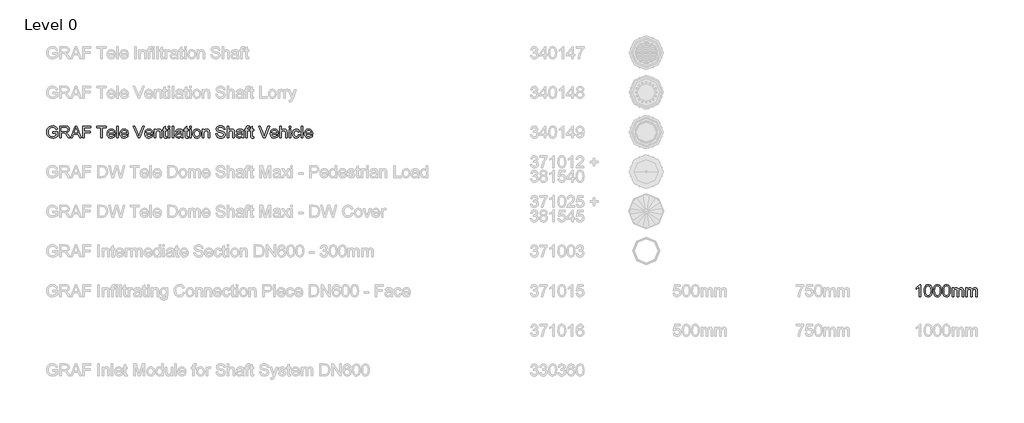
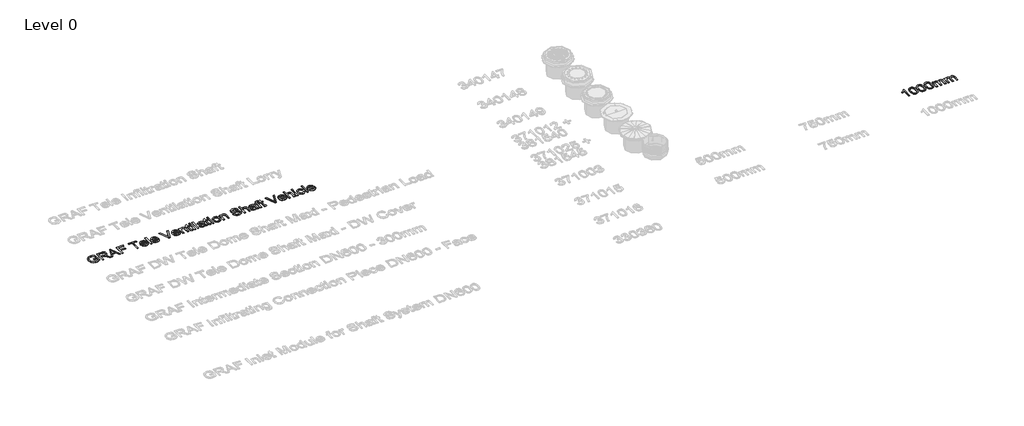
# One storey, part 15 of 25: 2 proxies.
"""IFC4 building model written with IfcOpenShell, lengths in millimetres."""

from ifc_helpers import new_model, si_unit, origin, origin_with_axes, place, context, project, spatial, polyline, outline, extrude, element, save

model = new_model("IFC4")

# Units and contexts
model_context = context("Model", 3, world=origin())
ifc_project = project(units=[si_unit("LENGTHUNIT", "METRE", prefix="MILLI")], contexts=[model_context])

# Site, building, storey
site = spatial("IfcSite", under=ifc_project)
building = spatial("IfcBuilding", under=site)
storey = spatial("IfcBuildingStorey", under=building, Name="Level 0", Elevation=0.0)

# Proxies
placement = place(None, origin())
element("IfcBuildingElementProxy", 1, Name="300mm Arial", ObjectType="300mm Arial", at=placement, inside=storey, context=model_context, shape_type="SweptSolid", body=[
    extrude(outline(polyline([(-15240.9940387, 1916.7454403), (-15240.9940387, 1954.4165566), (-15118.5629107, 1954.4165566), (-15118.5629107, 1841.7710897), (-15148.3153671, 1821.0777274), (-15179.0059225, 1806.2336889), (-15210.5610007, 1797.2941564), (-15242.9070251, 1794.3143123), (-15285.1674693, 1799.050793), (-15323.3628175, 1813.260235), (-15355.0926395, 1836.4459978), (-15377.9565055, 1868.1114405), (-15391.7796715, 1906.0952565), (-15396.3873935, 1948.2361391), (-15391.7980656, 1990.6805243), (-15378.0300819, 2030.1634594), (-15355.6536596, 2063.282036), (-15325.2390156, 2086.6333457), (-15288.1932987, 2100.4841028), (-15245.9236575, 2105.1010218), (-15214.8928112, 2102.4246803), (-15186.9889618, 2094.3956557), (-15163.4904994, 2081.5933623), (-15145.6758138, 2064.5972141), (-15132.4964413, 2042.5886738), (-15122.9039183, 2014.7492038), (-15157.6319786, 2004.9635427), (-15165.3850917, 2024.8199734), (-15174.8120678, 2039.8019677), (-15187.2832674, 2051.0959449), (-15204.169051, 2059.8883246), (-15224.3013932, 2065.5445103), (-15246.5122687, 2067.4299055), (-15272.5123287, 2065.3973575), (-15294.7415982, 2059.2997134), (-15313.1173039, 2049.9003284), (-15327.5566722, 2037.9625577), (-15346.9440533, 2008.9366683), (-15355.7732212, 1980.49939), (-15358.7162772, 1949.7812434), (-15355.175413, 1913.7563991), (-15344.5528204, 1884.1143073), (-15327.1703961, 1861.0665003), (-15303.3500369, 1844.8245102), (-15275.4737787, 1835.195199), (-15245.9236575, 1831.9854286), (-15219.831627, 1834.4042527), (-15194.3833899, 1841.6607251), (-15172.2828791, 1851.6579183), (-15156.234027, 1862.298905), (-15156.234027, 1916.7454403), (-15240.9940387, 1916.7454403)])), origin_with_axes(), (0.0, 0.0, 1.0), 10.0),
    extrude(outline(polyline([(-15057.3473467, 1799.0232018), (-15057.3473467, 2100.3921323), (-14927.4850024, 2100.3921323), (-14892.5821982, 2098.3595842), (-14867.1891434, 2092.2619402), (-14848.6294968, 2081.0047511), (-14834.2269167, 2063.4935682), (-14824.9838815, 2041.7793334), (-14821.9028698, 2017.912989), (-14827.0072325, 1988.2249119), (-14842.3203206, 1963.6136065), (-14853.9200997, 1953.5842236), (-14868.3019865, 1945.5689946), (-14905.4120827, 1935.5809984), (-14884.0013506, 1919.467767), (-14853.467145, 1880.6930048), (-14803.2144645, 1799.0232018), (-14846.9924219, 1799.0232018), (-14886.2086426, 1861.4895646), (-14914.5355562, 1902.8395009), (-14934.4379722, 1922.3740348), (-14952.3538253, 1929.5477337), (-14974.2060158, 1930.8721089), (-15019.6762304, 1930.8721089), (-15019.6762304, 1799.0232018), (-15057.3473467, 1799.0232018)]), holes=[polyline([(-15019.6762304, 1968.5432252), (-14935.3576771, 1968.5432252), (-14911.1418448, 1969.8767974), (-14892.3522719, 1973.8775141), (-14878.2072092, 1980.8120897), (-14867.9249074, 1990.9472387), (-14861.6617165, 2003.2069062), (-14859.5739861, 2016.5150374), (-14863.5563087, 2034.890743), (-14875.5032765, 2049.6979933), (-14896.058683, 2059.4652603), (-14925.8663217, 2062.721016), (-15019.6762304, 2062.721016), (-15019.6762304, 1968.5432252)])]), origin_with_axes(), (0.0, 0.0, 1.0), 10.0),
    extrude(outline(polyline([(-14791.0743586, 1799.0232018), (-14670.7769462, 2100.3921323), (-14638.6976362, 2100.3921323), (-14518.4002238, 1799.0232018), (-14558.2050557, 1799.0232018), (-14592.7123868, 1893.2009926), (-14716.835772, 1893.2009926), (-14751.2695268, 1799.0232018), (-14791.0743586, 1799.0232018)]), holes=[polyline([(-14703.003409, 1930.8721089), (-14606.4711735, 1930.8721089), (-14633.6208647, 2004.9635427), (-14654.7372912, 2062.721016), (-14673.499273, 2011.4382658), (-14703.003409, 1930.8721089)])]), origin_with_axes(), (0.0, 0.0, 1.0), 10.0),
    extrude(outline(polyline([(-14478.1539335, 1799.0232018), (-14478.1539335, 2100.3921323), (-14275.6716834, 2100.3921323), (-14275.6716834, 2062.721016), (-14440.4828172, 2062.721016), (-14440.4828172, 1973.2521147), (-14299.2161311, 1973.2521147), (-14299.2161311, 1935.5809984), (-14440.4828172, 1935.5809984), (-14440.4828172, 1799.0232018), (-14478.1539335, 1799.0232018)])), origin_with_axes(), (0.0, 0.0, 1.0), 10.0),
    extrude(outline(polyline([(-14030.8094274, 1799.0232018), (-14030.8094274, 2062.721016), (-14129.6961077, 2062.721016), (-14129.6961077, 2100.3921323), (-13894.2516308, 2100.3921323), (-13894.2516308, 2062.721016), (-13993.1383111, 2062.721016), (-13993.1383111, 1799.0232018), (-14030.8094274, 1799.0232018)])), origin_with_axes(), (0.0, 0.0, 1.0), 10.0),
    extrude(outline(polyline([(-13701.6286181, 1864.9476554), (-13664.6932658, 1860.2387658), (-13678.001397, 1832.4084929), (-13699.2373851, 1811.6047661), (-13727.9229837, 1798.6369257), (-13763.5799461, 1794.3143123), (-13786.9542484, 1796.1790141), (-13807.7809678, 1801.7731197), (-13826.0601045, 1811.0966291), (-13841.7916583, 1824.1495421), (-13854.4422004, 1840.5685754), (-13863.4783019, 1859.9904455), (-13868.8999628, 1882.4151523), (-13870.7071831, 1907.842696), (-13868.8815687, 1934.1324631), (-13863.4047255, 1957.3044302), (-13854.2766535, 1977.3585975), (-13841.4973527, 1994.2949649), (-13825.8071856, 2007.7502488), (-13807.9465147, 2017.361166), (-13787.9153401, 2023.1277162), (-13765.7136617, 2025.0498997), (-13744.2270539, 2023.1323148), (-13724.7959868, 2017.3795601), (-13707.4204603, 2007.7916356), (-13692.1004744, 1994.3685413), (-13679.5947859, 1977.4689621), (-13670.6621512, 1957.451583), (-13665.3025704, 1934.3164041), (-13663.5160434, 1908.0634252), (-13663.7367726, 1897.9098821), (-13833.0360668, 1897.9098821), (-13826.5153584, 1869.7117272), (-13811.3678173, 1848.9815768), (-13789.5064297, 1836.2344656), (-13762.8441821, 1831.9854286), (-13742.7946134, 1833.9535973), (-13725.9088298, 1839.8581033), (-13712.1868314, 1850.0668287), (-13701.6286181, 1864.9476554)]), holes=[polyline([(-13833.0360668, 1935.5809984), (-13701.1871597, 1935.5809984), (-13706.2823254, 1955.4834144), (-13716.2703215, 1969.7204476), (-13738.2328766, 1982.9641994), (-13765.8608145, 1987.3787834), (-13791.2538692, 1983.8563132), (-13812.2507341, 1973.2889029), (-13826.8464522, 1956.8169866), (-13833.0360668, 1935.5809984)])]), origin_with_axes(), (0.0, 0.0, 1.0), 10.0),
    extrude(outline(polyline([(-13625.8449271, 1799.0232018), (-13625.8449271, 2100.3921323), (-13588.1738108, 2100.3921323), (-13588.1738108, 1799.0232018), (-13625.8449271, 1799.0232018)])), origin_with_axes(), (0.0, 0.0, 1.0), 10.0),
    extrude(outline(polyline([(-13376.71524, 1864.9476554), (-13339.7798877, 1860.2387658), (-13353.0880188, 1832.4084929), (-13374.324007, 1811.6047661), (-13403.0096056, 1798.6369257), (-13438.666568, 1794.3143123), (-13462.0408702, 1796.1790141), (-13482.8675897, 1801.7731197), (-13501.1467263, 1811.0966291), (-13516.8782801, 1824.1495421), (-13529.5288222, 1840.5685754), (-13538.5649238, 1859.9904455), (-13543.9865847, 1882.4151523), (-13545.793805, 1907.842696), (-13543.9681906, 1934.1324631), (-13538.4913474, 1957.3044302), (-13529.3632754, 1977.3585975), (-13516.5839745, 1994.2949649), (-13500.8938074, 2007.7502488), (-13483.0331366, 2017.361166), (-13463.0019619, 2023.1277162), (-13440.8002835, 2025.0498997), (-13419.3136758, 2023.1323148), (-13399.8826086, 2017.3795601), (-13382.5070821, 2007.7916356), (-13367.1870963, 1994.3685413), (-13354.6814077, 1977.4689621), (-13345.748773, 1957.451583), (-13340.3891922, 1934.3164041), (-13338.6026653, 1908.0634252), (-13338.8233945, 1897.9098821), (-13508.1226887, 1897.9098821), (-13501.6019803, 1869.7117272), (-13486.4544391, 1848.9815768), (-13464.5930516, 1836.2344656), (-13437.930804, 1831.9854286), (-13417.8812352, 1833.9535973), (-13400.9954517, 1839.8581033), (-13387.2734532, 1850.0668287), (-13376.71524, 1864.9476554)]), holes=[polyline([(-13508.1226887, 1935.5809984), (-13376.2737816, 1935.5809984), (-13381.3689472, 1955.4834144), (-13391.3569434, 1969.7204476), (-13413.3194985, 1982.9641994), (-13440.9474363, 1987.3787834), (-13466.3404911, 1983.8563132), (-13487.3373559, 1973.2889029), (-13501.9330741, 1956.8169866), (-13508.1226887, 1935.5809984)])]), origin_with_axes(), (0.0, 0.0, 1.0), 10.0),
    extrude(outline(polyline([(-13089.4729781, 1799.0232018), (-13209.4025086, 2100.3921323), (-13169.0826419, 2100.3921323), (-13088.8107906, 1883.2681787), (-13072.5504064, 1834.3398734), (-13056.5107514, 1883.2681787), (-12976.0181708, 2100.3921323), (-12935.6983042, 2100.3921323), (-13050.5510631, 1799.0232018), (-13089.4729781, 1799.0232018)])), origin_with_axes(), (0.0, 0.0, 1.0), 10.0),
    extrude(outline(polyline([(-12750.4329314, 1864.9476554), (-12713.4975791, 1860.2387658), (-12726.8057102, 1832.4084929), (-12748.0416984, 1811.6047661), (-12776.727297, 1798.6369257), (-12812.3842594, 1794.3143123), (-12835.7585616, 1796.1790141), (-12856.5852811, 1801.7731197), (-12874.8644177, 1811.0966291), (-12890.5959716, 1824.1495421), (-12903.2465137, 1840.5685754), (-12912.2826152, 1859.9904455), (-12917.7042761, 1882.4151523), (-12919.5114964, 1907.842696), (-12917.685882, 1934.1324631), (-12912.2090388, 1957.3044302), (-12903.0809668, 1977.3585975), (-12890.301666, 1994.2949649), (-12874.6114989, 2007.7502488), (-12856.750828, 2017.361166), (-12836.7196534, 2023.1277162), (-12814.5179749, 2025.0498997), (-12793.0313672, 2023.1323148), (-12773.6003, 2017.3795601), (-12756.2247736, 2007.7916356), (-12740.9047877, 1994.3685413), (-12728.3990991, 1977.4689621), (-12719.4664644, 1957.451583), (-12714.1068836, 1934.3164041), (-12712.3203567, 1908.0634252), (-12712.5410859, 1897.9098821), (-12881.8403801, 1897.9098821), (-12875.3196717, 1869.7117272), (-12860.1721306, 1848.9815768), (-12838.310743, 1836.2344656), (-12811.6484954, 1831.9854286), (-12791.5989266, 1833.9535973), (-12774.7131431, 1839.8581033), (-12760.9911447, 1850.0668287), (-12750.4329314, 1864.9476554)]), holes=[polyline([(-12881.8403801, 1935.5809984), (-12749.991473, 1935.5809984), (-12755.0866386, 1955.4834144), (-12765.0746348, 1969.7204476), (-12787.0371899, 1982.9641994), (-12814.6651277, 1987.3787834), (-12840.0581825, 1983.8563132), (-12861.0550473, 1973.2889029), (-12875.6507655, 1956.8169866), (-12881.8403801, 1935.5809984)])]), origin_with_axes(), (0.0, 0.0, 1.0), 10.0),
    extrude(outline(polyline([(-12674.6492404, 1799.0232018), (-12674.6492404, 2020.3410101), (-12636.9781241, 2020.3410101), (-12636.9781241, 1989.4389225), (-12623.8907221, 2005.018725), (-12608.1729639, 2016.1471554), (-12589.8248493, 2022.8242136), (-12568.8463786, 2025.0498997), (-12550.2775349, 2023.2564749), (-12533.2721896, 2017.8762008), (-12519.0903387, 2009.5804618), (-12508.991978, 1999.0406426), (-12497.6980007, 1971.3391284), (-12495.7114379, 1934.9188108), (-12495.7114379, 1799.0232018), (-12533.3825542, 1799.0232018), (-12533.3825542, 1929.8420393), (-12537.7235618, 1963.1721481), (-12543.7292353, 1973.0957649), (-12553.064241, 1980.7936956), (-12565.0296029, 1985.7325114), (-12578.9263452, 1987.3787834), (-12600.9900679, 1983.6815693), (-12619.7980349, 1972.5899271), (-12627.3143239, 1963.5354315), (-12632.6831018, 1951.1608009), (-12636.9781241, 1916.4511347), (-12636.9781241, 1799.0232018), (-12674.6492404, 1799.0232018)])), origin_with_axes(), (0.0, 0.0, 1.0), 10.0),
    extrude(outline(polyline([(-12363.8625309, 1830.4403242), (-12359.1536413, 1797.9195558), (-12387.3334021, 1794.3143123), (-12405.4148022, 1795.8778108), (-12418.8976773, 1800.5683062), (-12428.425821, 1807.7971874), (-12434.6430267, 1816.9758432), (-12438.0643293, 1832.7395867), (-12439.2047635, 1859.723731), (-12439.2047635, 1982.6698938), (-12467.4581007, 1982.6698938), (-12467.4581007, 2020.3410101), (-12439.2047635, 2020.3410101), (-12439.2047635, 2074.1253578), (-12401.5336472, 2096.2718539), (-12401.5336472, 2020.3410101), (-12363.8625309, 2020.3410101), (-12363.8625309, 1982.6698938), (-12401.5336472, 1982.6698938), (-12401.5336472, 1860.827377), (-12399.5470844, 1841.4032077), (-12393.1091495, 1834.5238144), (-12380.2700678, 1831.9854286), (-12363.8625309, 1830.4403242)])), origin_with_axes(), (0.0, 0.0, 1.0), 10.0),
    extrude(outline(polyline([(-12326.1914146, 1799.0232018), (-12326.1914146, 2020.3410101), (-12288.5202982, 2020.3410101), (-12288.5202982, 1799.0232018), (-12326.1914146, 1799.0232018)])), origin_with_axes(), (0.0, 0.0, 1.0), 10.0),
    extrude(outline(polyline([(-12326.1914146, 2062.721016), (-12326.1914146, 2100.3921323), (-12288.5202982, 2100.3921323), (-12288.5202982, 2062.721016), (-12326.1914146, 2062.721016)])), origin_with_axes(), (0.0, 0.0, 1.0), 10.0),
    extrude(outline(polyline([(-12232.0136238, 1799.0232018), (-12232.0136238, 2100.3921323), (-12194.3425075, 2100.3921323), (-12194.3425075, 1799.0232018), (-12232.0136238, 1799.0232018)])), origin_with_axes(), (0.0, 0.0, 1.0), 10.0),
    extrude(outline(polyline([(-11996.5691469, 1827.2765391), (-12014.5677735, 1811.8438894), (-12033.099829, 1801.7455286), (-12052.5883777, 1796.1721164), (-12073.4564839, 1794.3143123), (-12104.9379856, 1798.7840785), (-12128.1605365, 1812.1933772), (-12142.4803432, 1832.5556457), (-12147.2536121, 1857.8843211), (-12145.4509903, 1873.5009117), (-12140.043125, 1887.6827627), (-12131.7014008, 1899.8228685), (-12121.0972022, 1909.314224), (-12094.7200632, 1921.675059), (-12062.1257184, 1927.3404417), (-12023.6084735, 1933.3001301), (-11996.7898761, 1940.289888), (-11996.5691469, 1948.6775975), (-11999.1627149, 1965.4898046), (-12006.9434191, 1976.4894763), (-12024.3442375, 1984.6564566), (-12048.587661, 1987.3787834), (-12071.0284627, 1985.5669645), (-12086.7002357, 1980.131508), (-12097.3872077, 1970.0791325), (-12104.8736063, 1954.4165566), (-12142.5447226, 1959.1254461), (-12136.0056201, 1979.7268379), (-12126.2475502, 1995.9136456), (-12112.3600049, 2008.2928748), (-12093.4324762, 2017.4715306), (-12070.2835017, 2023.1553074), (-12043.7316187, 2025.0498997), (-12018.2649875, 2023.3760366), (-11998.0774631, 2018.3544473), (-11982.8563455, 2010.8036694), (-11972.2889352, 2001.5422402), (-11965.2807832, 1990.0919131), (-11960.7374405, 1975.9744415), (-11958.8980306, 1943.0122147), (-11958.8980306, 1896.1440485), (-11956.9850442, 1830.6978416), (-11949.4802515, 1799.0232018), (-11987.1513678, 1799.0232018), (-11996.5691469, 1827.2765391)]), holes=[polyline([(-11996.5691469, 1902.6187717), (-12057.3432525, 1891.067277), (-12089.7536563, 1884.9604359), (-12104.4321479, 1875.027622), (-12109.5824958, 1860.5330714), (-12106.7773956, 1849.3310647), (-12098.3620949, 1840.1524089), (-12084.5205349, 1834.0271737), (-12065.4366564, 1831.9854286), (-12045.2031466, 1834.2387058), (-12027.3240817, 1840.9985375), (-12012.8295311, 1850.9589425), (-12002.7495644, 1862.8139398), (-11998.2797982, 1875.027622), (-11996.7898761, 1891.9501938), (-11996.5691469, 1902.6187717)])]), origin_with_axes(), (0.0, 0.0, 1.0), 10.0),
    extrude(outline(polyline([(-11827.0491235, 1830.4403242), (-11822.340234, 1797.9195558), (-11850.5199948, 1794.3143123), (-11868.6013949, 1795.8778108), (-11882.08427, 1800.5683062), (-11891.6124136, 1807.7971874), (-11897.8296194, 1816.9758432), (-11901.2509219, 1832.7395867), (-11902.3913561, 1859.723731), (-11902.3913561, 1982.6698938), (-11930.6446933, 1982.6698938), (-11930.6446933, 2020.3410101), (-11902.3913561, 2020.3410101), (-11902.3913561, 2074.1253578), (-11864.7202398, 2096.2718539), (-11864.7202398, 2020.3410101), (-11827.0491235, 2020.3410101), (-11827.0491235, 1982.6698938), (-11864.7202398, 1982.6698938), (-11864.7202398, 1860.827377), (-11862.733677, 1841.4032077), (-11856.2957421, 1834.5238144), (-11843.4566605, 1831.9854286), (-11827.0491235, 1830.4403242)])), origin_with_axes(), (0.0, 0.0, 1.0), 10.0),
    extrude(outline(polyline([(-11789.3780072, 1799.0232018), (-11789.3780072, 2020.3410101), (-11751.7068909, 2020.3410101), (-11751.7068909, 1799.0232018), (-11789.3780072, 1799.0232018)])), origin_with_axes(), (0.0, 0.0, 1.0), 10.0),
    extrude(outline(polyline([(-11789.3780072, 2062.721016), (-11789.3780072, 2100.3921323), (-11751.7068909, 2100.3921323), (-11751.7068909, 2062.721016), (-11789.3780072, 2062.721016)])), origin_with_axes(), (0.0, 0.0, 1.0), 10.0),
    extrude(outline(polyline([(-11704.6179955, 1909.682106), (-11702.580849, 1938.3447119), (-11696.4694093, 1963.0433894), (-11686.2836766, 1983.7781383), (-11672.0236507, 2000.5489588), (-11657.6670559, 2011.2681204), (-11641.8205389, 2018.9246644), (-11624.4840999, 2023.5185909), (-11605.6577388, 2025.0498997), (-11584.8747053, 2023.1851978), (-11566.0828332, 2017.5910922), (-11549.2821223, 2008.2675829), (-11534.4725727, 1995.2146698), (-11522.3853499, 1978.8738115), (-11513.7516194, 1959.6864662), (-11508.571381, 1937.6526339), (-11506.8446349, 1912.7723147), (-11509.8980555, 1874.7149223), (-11519.0583171, 1845.7442152), (-11534.0587055, 1824.0483745), (-11554.6325061, 1807.8155815), (-11579.0690676, 1797.6896296), (-11605.6577388, 1794.3143123), (-11626.7442749, 1796.1721164), (-11645.710891, 1801.7455286), (-11662.5575871, 1811.034549), (-11677.2843633, 1824.0391775), (-11689.2428274, 1840.538685), (-11697.7845874, 1860.3123422), (-11702.9096435, 1883.3601492), (-11704.6179955, 1909.682106)]), holes=[polyline([(-11666.9468792, 1909.7556824), (-11662.5874776, 1875.6622185), (-11649.5092726, 1851.3728097), (-11629.8275859, 1836.8322739), (-11605.6577388, 1831.9854286), (-11581.5982563, 1836.859865), (-11561.9533578, 1851.4831743), (-11548.8751528, 1876.0944798), (-11544.5157512, 1910.9329048), (-11548.902744, 1944.0330873), (-11562.0637224, 1967.9914022), (-11581.7362121, 1982.5319381), (-11605.6577388, 1987.3787834), (-11629.8275859, 1982.5503322), (-11649.5092726, 1968.0649786), (-11662.5874776, 1943.8307522), (-11666.9468792, 1909.7556824)])]), origin_with_axes(), (0.0, 0.0, 1.0), 10.0),
    extrude(outline(polyline([(-11464.464629, 1799.0232018), (-11464.464629, 2020.3410101), (-11426.7935127, 2020.3410101), (-11426.7935127, 1989.4389225), (-11413.7061108, 2005.018725), (-11397.9883525, 2016.1471554), (-11379.640238, 2022.8242136), (-11358.6617672, 2025.0498997), (-11340.0929235, 2023.2564749), (-11323.0875783, 2017.8762008), (-11308.9057274, 2009.5804618), (-11298.8073666, 1999.0406426), (-11287.5133894, 1971.3391284), (-11285.5268266, 1934.9188108), (-11285.5268266, 1799.0232018), (-11323.1979429, 1799.0232018), (-11323.1979429, 1929.8420393), (-11327.5389504, 1963.1721481), (-11333.544624, 1973.0957649), (-11342.8796296, 1980.7936956), (-11354.8449915, 1985.7325114), (-11368.7417339, 1987.3787834), (-11390.8054566, 1983.6815693), (-11409.6134236, 1972.5899271), (-11417.1297126, 1963.5354315), (-11422.4984904, 1951.1608009), (-11426.7935127, 1916.4511347), (-11426.7935127, 1799.0232018), (-11464.464629, 1799.0232018)])), origin_with_axes(), (0.0, 0.0, 1.0), 10.0),
    extrude(outline(polyline([(-11125.4245823, 1902.6187717), (-11087.753466, 1902.6187717), (-11083.4308525, 1881.7138773), (-11075.6133601, 1864.9108672), (-11063.418072, 1851.5751448), (-11045.9620713, 1841.0721139), (-11024.6249156, 1834.2570999), (-11000.7861623, 1831.9854286), (-10979.7984945, 1833.7052769), (-10961.4227888, 1838.8648219), (-10946.5327651, 1847.0318022), (-10936.002143, 1857.7739565), (-10929.738952, 1870.1072003), (-10927.6512217, 1883.0474495), (-10929.2147202, 1895.6566049), (-10933.9052156, 1906.555109), (-10943.4333593, 1915.8533264), (-10959.5098025, 1923.6616218), (-11014.361008, 1938.0458078), (-11050.3674582, 1947.5647544), (-11073.4060682, 1956.6238486), (-11092.1588529, 1969.2973833), (-11105.44859, 1984.6564566), (-11113.3672499, 2002.3699747), (-11116.0068032, 2022.1068437), (-11112.7418505, 2044.1705664), (-11102.9469924, 2064.7443669), (-11086.8797462, 2082.1819735), (-11064.7976295, 2094.8371141), (-11038.2917317, 2102.5350449), (-11008.9531426, 2105.1010218), (-10977.1681382, 2102.4154832), (-10949.3562594, 2094.3588675), (-10926.5107875, 2081.0967216), (-10909.6250039, 2062.7945924), (-10898.938032, 2040.592914), (-10894.6889949, 2015.6321206), (-10932.3601112, 2015.6321206), (-10939.2762927, 2038.1097105), (-10953.6972669, 2054.3333065), (-10976.2300392, 2064.1557557), (-11007.4816146, 2067.4299055), (-11039.4689541, 2064.1925439), (-11061.4131151, 2054.4804593), (-11074.105044, 2040.1882438), (-11078.3356869, 2023.2104897), (-11075.3374487, 2008.7343332), (-11066.3427339, 1997.090868), (-11045.0791545, 1986.6798076), (-11004.8328643, 1976.0480179), (-10963.298987, 1965.9496571), (-10938.1726467, 1957.1388833), (-10916.6975353, 1943.4720672), (-10901.715541, 1926.6046777), (-10892.9139643, 1906.7206559), (-10889.9801054, 1884.0039427), (-10893.3554227, 1860.7813918), (-10903.4813746, 1838.9383983), (-10919.9440939, 1820.1396283), (-10942.3297133, 1806.0497479), (-10969.2494783, 1797.2481712), (-10999.3146343, 1794.3143123), (-11036.2223955, 1797.4780974), (-11066.6002513, 1806.9694529), (-11090.7976895, 1822.8251669), (-11109.1641981, 1845.0820276), (-11120.9548161, 1872.1949307), (-11125.4245823, 1902.6187717)])), origin_with_axes(), (0.0, 0.0, 1.0), 10.0),
    extrude(outline(polyline([(-10838.1823205, 1799.0232018), (-10838.1823205, 2100.3921323), (-10800.5112042, 2100.3921323), (-10800.5112042, 1989.5860753), (-10786.6742426, 2005.1014985), (-10771.1358268, 2016.1839436), (-10753.8959568, 2022.8334106), (-10734.9546326, 2025.0498997), (-10712.2011312, 2022.6310755), (-10692.6482032, 2015.3746032), (-10677.2523417, 2003.8506997), (-10666.9700399, 1988.6295821), (-10661.1758985, 1967.7154907), (-10659.244518, 1939.1126656), (-10659.244518, 1799.0232018), (-10696.9156343, 1799.0232018), (-10696.9156343, 1935.2131164), (-10699.9138726, 1958.7943523), (-10708.9085874, 1974.9443719), (-10723.403138, 1984.2701805), (-10742.9008837, 1987.3787834), (-10758.8209771, 1985.281856), (-10773.7661831, 1978.9910739), (-10786.1454122, 1969.1134423), (-10794.3675748, 1956.2559666), (-10798.9752968, 1939.1678479), (-10800.5112042, 1916.5982875), (-10800.5112042, 1799.0232018), (-10838.1823205, 1799.0232018)])), origin_with_axes(), (0.0, 0.0, 1.0), 10.0),
    extrude(outline(polyline([(-10466.1800469, 1827.2765391), (-10484.1786736, 1811.8438894), (-10502.7107291, 1801.7455286), (-10522.1992778, 1796.1721164), (-10543.0673839, 1794.3143123), (-10574.5488857, 1798.7840785), (-10597.7714366, 1812.1933772), (-10612.0912433, 1832.5556457), (-10616.8645122, 1857.8843211), (-10615.0618904, 1873.5009117), (-10609.6540251, 1887.6827627), (-10601.3123008, 1899.8228685), (-10590.7081023, 1909.314224), (-10564.3309633, 1921.675059), (-10531.7366185, 1927.3404417), (-10493.2193736, 1933.3001301), (-10466.4007761, 1940.289888), (-10466.1800469, 1948.6775975), (-10468.773615, 1965.4898046), (-10476.5543192, 1976.4894763), (-10493.9551376, 1984.6564566), (-10518.1985611, 1987.3787834), (-10540.6393628, 1985.5669645), (-10556.3111358, 1980.131508), (-10566.9981077, 1970.0791325), (-10574.4845063, 1954.4165566), (-10612.1556226, 1959.1254461), (-10605.6165202, 1979.7268379), (-10595.8584502, 1995.9136456), (-10581.9709049, 2008.2928748), (-10563.0433763, 2017.4715306), (-10539.8944017, 2023.1553074), (-10513.3425187, 2025.0498997), (-10487.8758876, 2023.3760366), (-10467.6883631, 2018.3544473), (-10452.4672456, 2010.8036694), (-10441.8998353, 2001.5422402), (-10434.8916832, 1990.0919131), (-10430.3483406, 1975.9744415), (-10428.5089306, 1943.0122147), (-10428.5089306, 1896.1440485), (-10426.5959443, 1830.6978416), (-10419.0911516, 1799.0232018), (-10456.7622679, 1799.0232018), (-10466.1800469, 1827.2765391)]), holes=[polyline([(-10466.1800469, 1902.6187717), (-10526.9541525, 1891.067277), (-10559.3645563, 1884.9604359), (-10574.0430479, 1875.027622), (-10579.1933959, 1860.5330714), (-10576.3882956, 1849.3310647), (-10567.972995, 1840.1524089), (-10554.1314349, 1834.0271737), (-10535.0475564, 1831.9854286), (-10514.8140467, 1834.2387058), (-10496.9349817, 1840.9985375), (-10482.4404311, 1850.9589425), (-10472.3604645, 1862.8139398), (-10467.8906982, 1875.027622), (-10466.4007761, 1891.9501938), (-10466.1800469, 1902.6187717)])]), origin_with_axes(), (0.0, 0.0, 1.0), 10.0),
    extrude(outline(polyline([(-10367.2933666, 1799.0232018), (-10367.2933666, 1982.6698938), (-10400.2555934, 1982.6698938), (-10400.2555934, 2020.3410101), (-10367.2933666, 2020.3410101), (-10367.2933666, 2042.634659), (-10363.3202411, 2074.0517814), (-10355.741872, 2086.5781634), (-10344.0432245, 2096.4925831), (-10327.6724758, 2102.9489121), (-10306.0778026, 2105.1010218), (-10271.7176243, 2100.9807435), (-10277.2358542, 2065.6640719), (-10298.9408919, 2067.4299055), (-10313.2606986, 2065.866407), (-10322.6692806, 2061.1759116), (-10327.8840079, 2052.217985), (-10329.6222503, 2037.8521931), (-10329.6222503, 2020.3410101), (-10287.2422445, 2020.3410101), (-10287.2422445, 1982.6698938), (-10329.6222503, 1982.6698938), (-10329.6222503, 1799.0232018), (-10367.2933666, 1799.0232018)])), origin_with_axes(), (0.0, 0.0, 1.0), 10.0),
    extrude(outline(polyline([(-10174.2288956, 1830.4403242), (-10169.520006, 1797.9195558), (-10197.6997669, 1794.3143123), (-10215.7811669, 1795.8778108), (-10229.264042, 1800.5683062), (-10238.7921857, 1807.7971874), (-10245.0093914, 1816.9758432), (-10248.430694, 1832.7395867), (-10249.5711282, 1859.723731), (-10249.5711282, 1982.6698938), (-10277.8244654, 1982.6698938), (-10277.8244654, 2020.3410101), (-10249.5711282, 2020.3410101), (-10249.5711282, 2074.1253578), (-10211.9000119, 2096.2718539), (-10211.9000119, 2020.3410101), (-10174.2288956, 2020.3410101), (-10174.2288956, 1982.6698938), (-10211.9000119, 1982.6698938), (-10211.9000119, 1860.827377), (-10209.9134491, 1841.4032077), (-10203.4755142, 1834.5238144), (-10190.6364325, 1831.9854286), (-10174.2288956, 1830.4403242)])), origin_with_axes(), (0.0, 0.0, 1.0), 10.0),
    extrude(outline(polyline([(-9925.0992084, 1799.0232018), (-10045.0287389, 2100.3921323), (-10004.7088722, 2100.3921323), (-9924.4370208, 1883.2681787), (-9908.1766367, 1834.3398734), (-9892.1369817, 1883.2681787), (-9811.6444011, 2100.3921323), (-9771.3245344, 2100.3921323), (-9886.1772933, 1799.0232018), (-9925.0992084, 1799.0232018)])), origin_with_axes(), (0.0, 0.0, 1.0), 10.0),
    extrude(outline(polyline([(-9586.0591617, 1864.9476554), (-9549.1238094, 1860.2387658), (-9562.4319405, 1832.4084929), (-9583.6679287, 1811.6047661), (-9612.3535273, 1798.6369257), (-9648.0104897, 1794.3143123), (-9671.3847919, 1796.1790141), (-9692.2115114, 1801.7731197), (-9710.490648, 1811.0966291), (-9726.2222018, 1824.1495421), (-9738.8727439, 1840.5685754), (-9747.9088455, 1859.9904455), (-9753.3305064, 1882.4151523), (-9755.1377267, 1907.842696), (-9753.3121123, 1934.1324631), (-9747.8352691, 1957.3044302), (-9738.7071971, 1977.3585975), (-9725.9278962, 1994.2949649), (-9710.2377291, 2007.7502488), (-9692.3770583, 2017.361166), (-9672.3458836, 2023.1277162), (-9650.1442052, 2025.0498997), (-9628.6575975, 2023.1323148), (-9609.2265303, 2017.3795601), (-9591.8510038, 2007.7916356), (-9576.531018, 1994.3685413), (-9564.0253294, 1977.4689621), (-9555.0926947, 1957.451583), (-9549.7331139, 1934.3164041), (-9547.946587, 1908.0634252), (-9548.1673162, 1897.9098821), (-9717.4666104, 1897.9098821), (-9710.945902, 1869.7117272), (-9695.7983608, 1848.9815768), (-9673.9369733, 1836.2344656), (-9647.2747257, 1831.9854286), (-9627.2251569, 1833.9535973), (-9610.3393734, 1839.8581033), (-9596.6173749, 1850.0668287), (-9586.0591617, 1864.9476554)]), holes=[polyline([(-9717.4666104, 1935.5809984), (-9585.6177033, 1935.5809984), (-9590.7128689, 1955.4834144), (-9600.7008651, 1969.7204476), (-9622.6634202, 1982.9641994), (-9650.291358, 1987.3787834), (-9675.6844128, 1983.8563132), (-9696.6812776, 1973.2889029), (-9711.2769958, 1956.8169866), (-9717.4666104, 1935.5809984)])]), origin_with_axes(), (0.0, 0.0, 1.0), 10.0),
    extrude(outline(polyline([(-9510.2754707, 1799.0232018), (-9510.2754707, 2100.3921323), (-9472.6043544, 2100.3921323), (-9472.6043544, 1989.5860753), (-9458.7673928, 2005.1014985), (-9443.228977, 2016.1839436), (-9425.989107, 2022.8334106), (-9407.0477828, 2025.0498997), (-9384.2942814, 2022.6310755), (-9364.7413534, 2015.3746032), (-9349.3454919, 2003.8506997), (-9339.0631901, 1988.6295821), (-9333.2690487, 1967.7154907), (-9331.3376682, 1939.1126656), (-9331.3376682, 1799.0232018), (-9369.0087845, 1799.0232018), (-9369.0087845, 1935.2131164), (-9372.0070228, 1958.7943523), (-9381.0017376, 1974.9443719), (-9395.4962882, 1984.2701805), (-9414.9940339, 1987.3787834), (-9430.9141273, 1985.281856), (-9445.8593333, 1978.9910739), (-9458.2385625, 1969.1134423), (-9466.460725, 1956.2559666), (-9471.068447, 1939.1678479), (-9472.6043544, 1916.5982875), (-9472.6043544, 1799.0232018), (-9510.2754707, 1799.0232018)])), origin_with_axes(), (0.0, 0.0, 1.0), 10.0),
    extrude(outline(polyline([(-9279.5398833, 2062.721016), (-9279.5398833, 2100.3921323), (-9241.868767, 2100.3921323), (-9241.868767, 2062.721016), (-9279.5398833, 2062.721016)])), origin_with_axes(), (0.0, 0.0, 1.0), 10.0),
    extrude(outline(polyline([(-9279.5398833, 1799.0232018), (-9279.5398833, 2020.3410101), (-9241.868767, 2020.3410101), (-9241.868767, 1799.0232018), (-9279.5398833, 1799.0232018)])), origin_with_axes(), (0.0, 0.0, 1.0), 10.0),
    extrude(outline(polyline([(-9044.0954064, 1879.074324), (-9006.4242901, 1874.3654344), (-9016.927321, 1840.8605817), (-9036.6641901, 1815.5411034), (-9063.7770931, 1799.6210101), (-9096.4082261, 1794.3143123), (-9117.5361489, 1796.1652186), (-9136.4797724, 1801.7179374), (-9153.2390966, 1810.9724689), (-9167.8141214, 1823.9288129), (-9179.6116371, 1840.3432477), (-9188.038434, 1859.9720514), (-9193.0945122, 1882.815224), (-9194.7798716, 1908.8727656), (-9191.901195, 1942.3960124), (-9183.2651652, 1971.449493), (-9168.7338263, 1994.9111672), (-9148.1692228, 2011.658995), (-9123.5671144, 2021.7021735), (-9096.9232609, 2025.0498997), (-9065.0922713, 2020.4513747), (-9039.6440342, 2006.6557999), (-9021.3878902, 1984.3989392), (-9011.1331796, 1954.4165566), (-9048.8042959, 1949.707667), (-9055.637704, 1966.1427952), (-9066.2786907, 1977.9242161), (-9080.1386449, 1985.0151415), (-9096.6289553, 1987.3787834), (-9120.9735463, 1982.7250761), (-9140.2965481, 1968.7639544), (-9152.9057035, 1944.7412601), (-9157.1087553, 1909.9028352), (-9152.997674, 1874.5953607), (-9140.6644301, 1850.4898929), (-9121.6909162, 1836.6115447), (-9097.6590249, 1831.9854286), (-9078.1520821, 1834.8733023), (-9062.1584123, 1843.5369232), (-9050.5241442, 1858.1970207), (-9044.0954064, 1879.074324)])), origin_with_axes(), (0.0, 0.0, 1.0), 10.0),
    extrude(outline(polyline([(-8973.4620633, 1799.0232018), (-8973.4620633, 2100.3921323), (-8935.790947, 2100.3921323), (-8935.790947, 1799.0232018), (-8973.4620633, 1799.0232018)])), origin_with_axes(), (0.0, 0.0, 1.0), 10.0),
    extrude(outline(polyline([(-8724.3323762, 1864.9476554), (-8687.3970239, 1860.2387658), (-8700.705155, 1832.4084929), (-8721.9411432, 1811.6047661), (-8750.6267418, 1798.6369257), (-8786.2837042, 1794.3143123), (-8809.6580064, 1796.1790141), (-8830.4847259, 1801.7731197), (-8848.7638625, 1811.0966291), (-8864.4954163, 1824.1495421), (-8877.1459584, 1840.5685754), (-8886.18206, 1859.9904455), (-8891.6037209, 1882.4151523), (-8893.4109412, 1907.842696), (-8891.5853268, 1934.1324631), (-8886.1084836, 1957.3044302), (-8876.9804115, 1977.3585975), (-8864.2011107, 1994.2949649), (-8848.5109436, 2007.7502488), (-8830.6502728, 2017.361166), (-8810.6190981, 2023.1277162), (-8788.4174197, 2025.0498997), (-8766.930812, 2023.1323148), (-8747.4997448, 2017.3795601), (-8730.1242183, 2007.7916356), (-8714.8042325, 1994.3685413), (-8702.2985439, 1977.4689621), (-8693.3659092, 1957.451583), (-8688.0063284, 1934.3164041), (-8686.2198015, 1908.0634252), (-8686.4405307, 1897.9098821), (-8855.7398249, 1897.9098821), (-8849.2191165, 1869.7117272), (-8834.0715753, 1848.9815768), (-8812.2101878, 1836.2344656), (-8785.5479402, 1831.9854286), (-8765.4983714, 1833.9535973), (-8748.6125879, 1839.8581033), (-8734.8905894, 1850.0668287), (-8724.3323762, 1864.9476554)]), holes=[polyline([(-8855.7398249, 1935.5809984), (-8723.8909178, 1935.5809984), (-8728.9860834, 1955.4834144), (-8738.9740796, 1969.7204476), (-8760.9366347, 1982.9641994), (-8788.5645725, 1987.3787834), (-8813.9576272, 1983.8563132), (-8834.9544921, 1973.2889029), (-8849.5502103, 1956.8169866), (-8855.7398249, 1935.5809984)])]), origin_with_axes(), (0.0, 0.0, 1.0), 10.0),
])
element("IfcBuildingElementProxy", 2, Name="300mm Arial", ObjectType="300mm Arial", at=placement, inside=storey, context=model_context, shape_type="SweptSolid", body=[
    extrude(outline(polyline([(6649.9277278, -2200.9767982), (6612.2566115, -2200.9767982), (6612.2566115, -1966.1209325), (6576.572058, -1991.5415783), (6536.9143789, -2010.5610775), (6536.9143789, -1974.9501003), (6566.5012884, -1958.8552631), (6592.1334664, -1939.7070052), (6612.339385, -1919.3447368), (6625.6475161, -1899.6078677), (6649.9277278, -1899.6078677), (6649.9277278, -2200.9767982)])), origin_with_axes(), (0.0, 0.0, 1.0), 10.0),
    extrude(outline(polyline([(6739.396629, -2052.7203541), (6742.1649411, -2004.4818275), (6750.4698771, -1966.0105679), (6764.2286637, -1936.717964), (6783.3585275, -1916.0154047), (6807.9974241, -1903.709752), (6838.2833093, -1899.6078677), (6861.4966632, -1902.0358889), (6882.281996, -1909.3199524), (6899.6644202, -1921.1749497), (6912.6690488, -1937.3157722), (6922.491498, -1957.6044643), (6930.3273845, -1981.9030701), (6935.4593384, -2012.7591724), (6937.1699896, -2052.7203541), (6934.4292688, -2100.6829692), (6926.2071062, -2139.0622584), (6912.531093, -2168.3824534), (6893.4288204, -2189.1677861), (6868.7347415, -2201.5562123), (6838.2833093, -2205.6856877), (6817.5347648, -2203.892263), (6799.1406651, -2198.5119888), (6783.1010101, -2189.5448652), (6769.4157998, -2176.9908921), (6756.2824126, -2154.2971715), (6746.9014217, -2126.0208417), (6741.2728272, -2092.1619025), (6739.396629, -2052.7203541)]), holes=[polyline([(6777.0677453, -2052.6467777), (6781.4823293, -2111.9033701), (6787.0005592, -2132.1713688), (6794.7260811, -2146.1991691), (6814.4445561, -2162.5607208), (6838.2833093, -2168.0145714), (6862.1220626, -2162.5423267), (6881.8405376, -2146.1255927), (6889.5660595, -2132.0747997), (6895.0842894, -2111.8113996), (6899.4988733, -2052.6467777), (6895.2314422, -1994.7237576), (6889.8971533, -1974.5224375), (6882.4291488, -1960.1612441), (6862.747462, -1942.9995491), (6837.841851, -1937.278984), (6814.2606151, -1942.3189674), (6795.3146923, -1957.4389174), (6787.331653, -1973.0739022), (6781.6294821, -1994.1535405), (6777.0677453, -2052.6467777)])]), origin_with_axes(), (0.0, 0.0, 1.0), 10.0),
    extrude(outline(polyline([(6970.1322164, -2052.7203541), (6972.9005284, -2004.4818275), (6981.2054645, -1966.0105679), (6994.9642511, -1936.717964), (7014.0941148, -1916.0154047), (7038.7330115, -1903.709752), (7069.0188967, -1899.6078677), (7092.2322506, -1902.0358889), (7113.0175833, -1909.3199524), (7130.4000076, -1921.1749497), (7143.4046361, -1937.3157722), (7153.2270854, -1957.6044643), (7161.0629719, -1981.9030701), (7166.1949257, -2012.7591724), (7167.905577, -2052.7203541), (7165.1648562, -2100.6829692), (7156.9426936, -2139.0622584), (7143.2666804, -2168.3824534), (7124.1644078, -2189.1677861), (7099.4703289, -2201.5562123), (7069.0188967, -2205.6856877), (7048.2703522, -2203.892263), (7029.8762524, -2198.5119888), (7013.8365974, -2189.5448652), (7000.1513872, -2176.9908921), (6987.018, -2154.2971715), (6977.6370091, -2126.0208417), (6972.0084146, -2092.1619025), (6970.1322164, -2052.7203541)]), holes=[polyline([(7007.8033327, -2052.6467777), (7012.2179167, -2111.9033701), (7017.7361466, -2132.1713688), (7025.4616685, -2146.1991691), (7045.1801434, -2162.5607208), (7069.0188967, -2168.0145714), (7092.85765, -2162.5423267), (7112.576125, -2146.1255927), (7120.3016468, -2132.0747997), (7125.8198768, -2111.8113996), (7130.2344607, -2052.6467777), (7125.9670296, -1994.7237576), (7120.6327406, -1974.5224375), (7113.1647361, -1960.1612441), (7093.4830494, -1942.9995491), (7068.5774383, -1937.278984), (7044.9962024, -1942.3189674), (7026.0502797, -1957.4389174), (7018.0672404, -1973.0739022), (7012.3650695, -1994.1535405), (7007.8033327, -2052.6467777)])]), origin_with_axes(), (0.0, 0.0, 1.0), 10.0),
    extrude(outline(polyline([(7200.8678038, -2052.7203541), (7203.6361158, -2004.4818275), (7211.9410518, -1966.0105679), (7225.6998385, -1936.717964), (7244.8297022, -1916.0154047), (7269.4685988, -1903.709752), (7299.7544841, -1899.6078677), (7322.967838, -1902.0358889), (7343.7531707, -1909.3199524), (7361.135595, -1921.1749497), (7374.1402235, -1937.3157722), (7383.9626728, -1957.6044643), (7391.7985593, -1981.9030701), (7396.9305131, -2012.7591724), (7398.6411644, -2052.7203541), (7395.9004435, -2100.6829692), (7387.6782809, -2139.0622584), (7374.0022678, -2168.3824534), (7354.8999952, -2189.1677861), (7330.2059162, -2201.5562123), (7299.7544841, -2205.6856877), (7279.0059396, -2203.892263), (7260.6118398, -2198.5119888), (7244.5721848, -2189.5448652), (7230.8869746, -2176.9908921), (7217.7535874, -2154.2971715), (7208.3725965, -2126.0208417), (7202.744002, -2092.1619025), (7200.8678038, -2052.7203541)]), holes=[polyline([(7238.5389201, -2052.6467777), (7242.953504, -2111.9033701), (7248.471734, -2132.1713688), (7256.1972559, -2146.1991691), (7275.9157308, -2162.5607208), (7299.7544841, -2168.0145714), (7323.5932374, -2162.5423267), (7343.3117123, -2146.1255927), (7351.0372342, -2132.0747997), (7356.5554642, -2111.8113996), (7360.9700481, -2052.6467777), (7356.7026169, -1994.7237576), (7351.368328, -1974.5224375), (7343.9003235, -1960.1612441), (7324.2186368, -1942.9995491), (7299.3130257, -1937.278984), (7275.7317898, -1942.3189674), (7256.7858671, -1957.4389174), (7248.8028278, -1973.0739022), (7243.1006568, -1994.1535405), (7238.5389201, -2052.6467777)])]), origin_with_axes(), (0.0, 0.0, 1.0), 10.0),
    extrude(outline(polyline([(7441.0211702, -2200.9767982), (7441.0211702, -1979.6589899), (7478.6922866, -1979.6589899), (7478.6922866, -2016.0793074), (7490.023052, -1999.3498737), (7504.591179, -1986.2440776), (7521.9000269, -1977.7735947), (7541.4529549, -1974.9501003), (7562.4038346, -1977.828777), (7579.1976476, -1986.4648068), (7591.7424237, -2000.2879728), (7599.9461922, -2018.7280578), (7613.6773876, -1999.5752014), (7629.3399636, -1985.8945897), (7646.93392, -1977.6862227), (7666.4592569, -1974.9501003), (7694.7769735, -1979.50264), (7715.718656, -1993.1602591), (7728.6589052, -2016.2908395), (7732.9723216, -2049.2622634), (7732.9723216, -2200.9767982), (7695.3012053, -2200.9767982), (7695.3012053, -2065.4490712), (7691.8063264, -2033.9951606), (7686.8951017, -2025.3223425), (7679.1511857, -2018.5073286), (7669.1907807, -2014.0927446), (7657.630089, -2012.6212166), (7637.2218353, -2016.3920071), (7620.5843721, -2027.7043784), (7609.5203211, -2047.3308829), (7605.8323041, -2076.0440726), (7605.8323041, -2200.9767982), (7568.1611878, -2200.9767982), (7568.1611878, -2061.2552164), (7565.981487, -2039.9548489), (7559.4423845, -2024.7613225), (7547.9368751, -2015.6562431), (7530.8579535, -2012.6212166), (7516.3450088, -2014.6445676), (7502.9724982, -2020.7146205), (7491.9360384, -2030.6842226), (7484.4312457, -2044.406221), (7480.1270263, -2063.4441143), (7478.6922866, -2089.3614008), (7478.6922866, -2200.9767982), (7441.0211702, -2200.9767982)])), origin_with_axes(), (0.0, 0.0, 1.0), 10.0),
    extrude(outline(polyline([(7789.4789961, -2200.9767982), (7789.4789961, -1979.6589899), (7827.1501124, -1979.6589899), (7827.1501124, -2016.0793074), (7838.4808778, -1999.3498737), (7853.0490048, -1986.2440776), (7870.3578527, -1977.7735947), (7889.9107808, -1974.9501003), (7910.8616604, -1977.828777), (7927.6554735, -1986.4648068), (7940.2002495, -2000.2879728), (7948.404018, -2018.7280578), (7962.1352135, -1999.5752014), (7977.7977894, -1985.8945897), (7995.3917458, -1977.6862227), (8014.9170827, -1974.9501003), (8043.2347993, -1979.50264), (8064.1764819, -1993.1602591), (8077.1167311, -2016.2908395), (8081.4301474, -2049.2622634), (8081.4301474, -2200.9767982), (8043.7590311, -2200.9767982), (8043.7590311, -2065.4490712), (8040.2641522, -2033.9951606), (8035.3529276, -2025.3223425), (8027.6090116, -2018.5073286), (8017.6486065, -2014.0927446), (8006.0879148, -2012.6212166), (7985.6796612, -2016.3920071), (7969.0421979, -2027.7043784), (7957.9781469, -2047.3308829), (7954.2901299, -2076.0440726), (7954.2901299, -2200.9767982), (7916.6190136, -2200.9767982), (7916.6190136, -2061.2552164), (7914.4393128, -2039.9548489), (7907.9002103, -2024.7613225), (7896.3947009, -2015.6562431), (7879.3157793, -2012.6212166), (7864.8028346, -2014.6445676), (7851.4303241, -2020.7146205), (7840.3938642, -2030.6842226), (7832.8890715, -2044.406221), (7828.5848522, -2063.4441143), (7827.1501124, -2089.3614008), (7827.1501124, -2200.9767982), (7789.4789961, -2200.9767982)])), origin_with_axes(), (0.0, 0.0, 1.0), 10.0),
])

save(model, "model.ifc")
